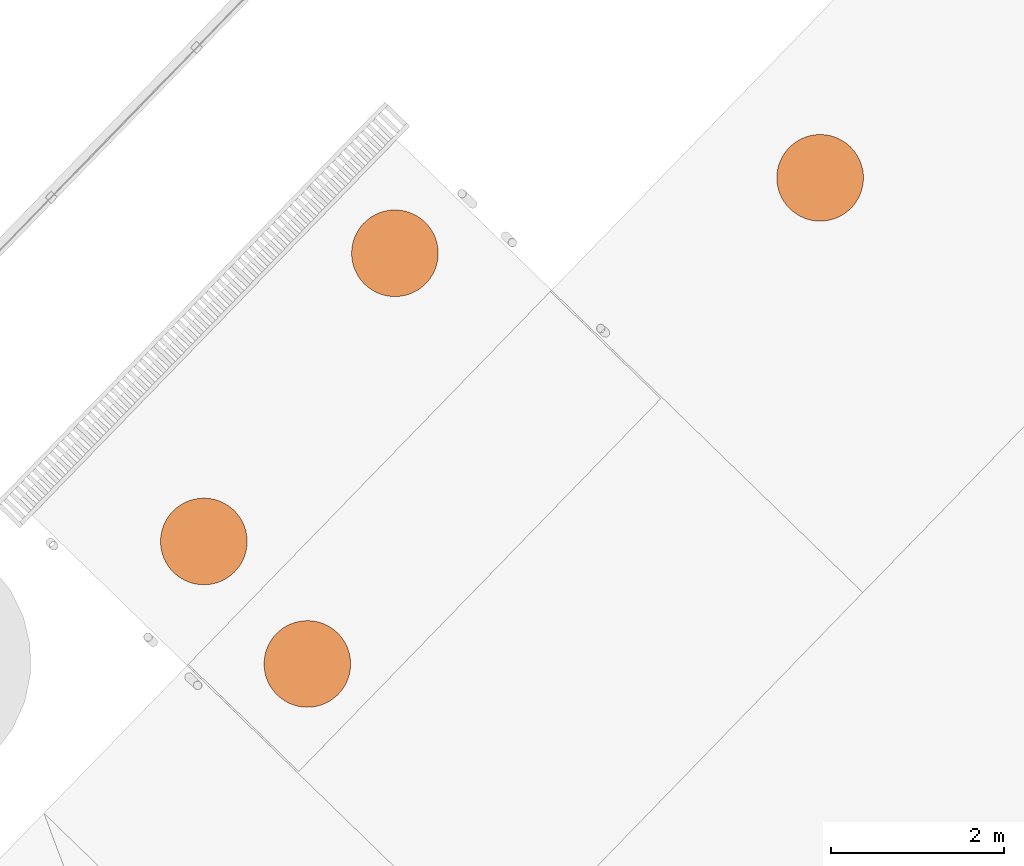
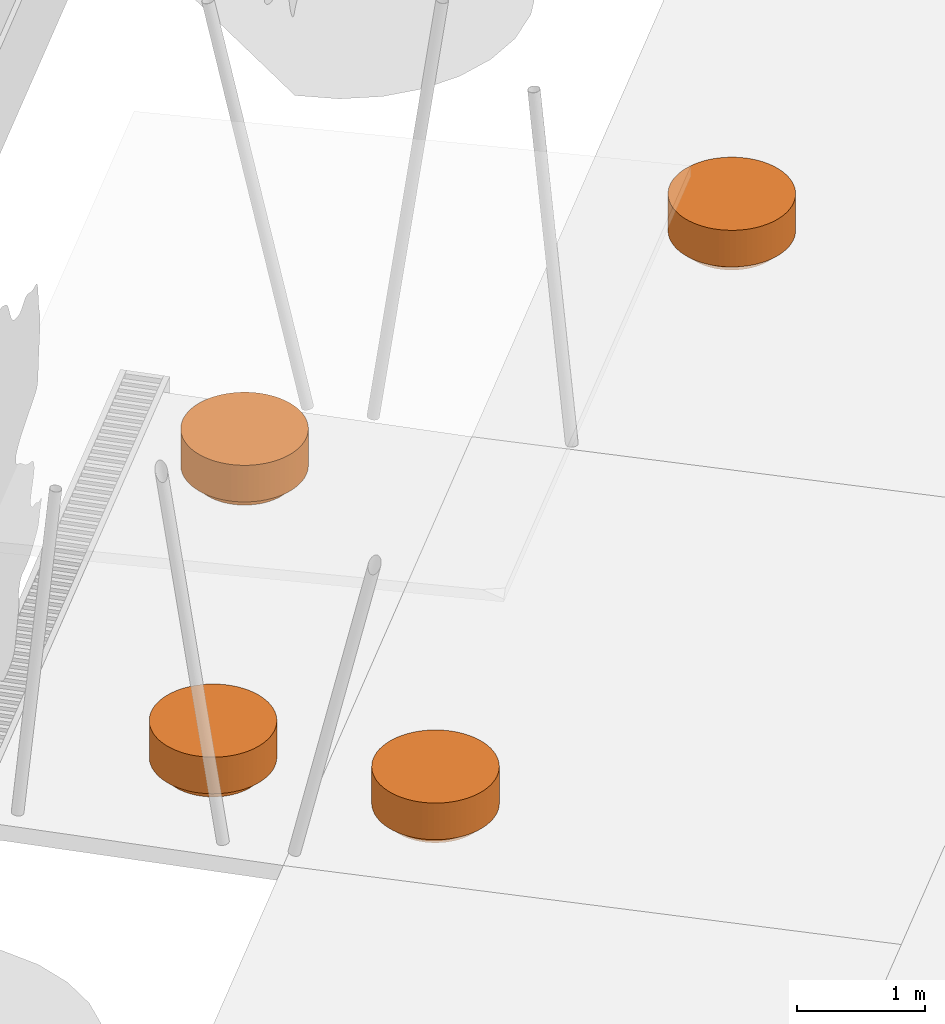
# One storey, part 35 of 37: 4 proxies.
"""IFC2X3 building model written with IfcOpenShell, lengths in centimetres."""

from ifc_helpers import new_model, entity, si_unit, converted_unit, derived_unit, direction, frame, frame_2d, origin, place, context, subcontext, project, spatial, circle, extrude, source, transform, mapped, material, type_object, type_shapes, element, save


model = new_model("IFC2X3")

# Units and contexts
model_context = context("Model", 3, precision=0.001, world=origin(), true_north=direction((0.717475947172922, 0.696583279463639)))
body_context = subcontext(model_context, "Body", "Model", "MODEL_VIEW")
ifc_project = project(units=[si_unit("LENGTHUNIT", "METRE", prefix="CENTI"), si_unit("AREAUNIT", "SQUARE_METRE"), si_unit("VOLUMEUNIT", "CUBIC_METRE"), converted_unit("PLANEANGLEUNIT", "DEGREE", entity("IfcRatioMeasure", 0.0174532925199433), si_unit("PLANEANGLEUNIT", "RADIAN"), dimensions=[0, 0, 0, 0, 0, 0, 0]), si_unit("MASSUNIT", "GRAM", prefix="KILO"), derived_unit("MASSDENSITYUNIT", [(si_unit("MASSUNIT", "GRAM", prefix="KILO"), 1), (si_unit("LENGTHUNIT", "METRE"), -3)]), si_unit("TIMEUNIT", "SECOND"), si_unit("FREQUENCYUNIT", "HERTZ"), si_unit("THERMODYNAMICTEMPERATUREUNIT", "DEGREE_CELSIUS"), derived_unit("THERMALTRANSMITTANCEUNIT", [(si_unit("MASSUNIT", "GRAM", prefix="KILO"), 1), (si_unit("THERMODYNAMICTEMPERATUREUNIT", "KELVIN"), -1), (si_unit("TIMEUNIT", "SECOND"), -3)]), derived_unit("VOLUMETRICFLOWRATEUNIT", [(si_unit("LENGTHUNIT", "METRE"), 3), (si_unit("TIMEUNIT", "SECOND"), -1)]), si_unit("ELECTRICCURRENTUNIT", "AMPERE"), si_unit("ELECTRICVOLTAGEUNIT", "VOLT"), si_unit("POWERUNIT", "WATT"), si_unit("FORCEUNIT", "NEWTON", prefix="KILO"), si_unit("ILLUMINANCEUNIT", "LUX"), si_unit("LUMINOUSFLUXUNIT", "LUMEN"), si_unit("LUMINOUSINTENSITYUNIT", "CANDELA"), derived_unit("USERDEFINED", [(si_unit("MASSUNIT", "GRAM", prefix="KILO"), -1), (si_unit("LENGTHUNIT", "METRE"), -2), (si_unit("TIMEUNIT", "SECOND"), 3), (si_unit("LUMINOUSFLUXUNIT", "LUMEN"), 1)]), derived_unit("LINEARVELOCITYUNIT", [(si_unit("LENGTHUNIT", "METRE"), 1), (si_unit("TIMEUNIT", "SECOND"), -1)]), si_unit("PRESSUREUNIT", "PASCAL"), derived_unit("USERDEFINED", [(si_unit("LENGTHUNIT", "METRE"), -2), (si_unit("MASSUNIT", "GRAM", prefix="KILO"), 1), (si_unit("TIMEUNIT", "SECOND"), -2)])], contexts=[model_context])

# Site, building, storey
site_placement = place(None, frame((0.0, 0.0, 0.0), z_axis=(0.0, 0.0, 1.0), x_axis=(0.696583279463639, 0.717475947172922, 0.0)))
site = spatial("IfcSite", under=ifc_project, at=site_placement, Name="Surface", CompositionType="ELEMENT")
building_placement = place(site_placement, origin())
building = spatial("IfcBuilding", under=site, at=building_placement, CompositionType="ELEMENT")
storey_placement = place(building_placement, origin())
storey = spatial("IfcBuildingStorey", under=building, at=storey_placement, Name="Nivel 0.00", CompositionType="ELEMENT", Elevation=0.0)

# Proxies
ifc_material = material(Name="Concrete, Precast")
building_element_proxy_type = type_object("IfcBuildingElementProxyType", Name="ARQ_BANCA_REDONDA", PredefinedType="NOTDEFINED", material=ifc_material)
shared_shape = source(origin(), body_context, "Body", "SweptSolid", [
    extrude(circle(Radius=50.0, at=frame_2d((9.37526436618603e-16, -8.07772287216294e-14), x_axis=(1.0, 0.0))), frame((0.0, 0.0, 10.0)), (0.0, 0.0, 1.0), 35.0),
    extrude(circle(Radius=40.0, at=frame_2d((-1.61808723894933e-18, -6.46217829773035e-14), x_axis=(1.0, 0.0))), origin(), (0.0, 0.0, 1.0), 10.0),
])
type_shapes(building_element_proxy_type, [shared_shape])
for number, where, name in (
    (1, (-1019.3043630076, 664.667913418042, 140.0), "ARQ_BANCA_REDONDA:ARQ_BANCA_REDONDA"),
    (2, (-626.821513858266, 738.183832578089, 140.0), "ARQ_BANCA_REDONDA:ARQ_BANCA_REDONDA"),
    (3, (-1037.51947610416, 480.353163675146, 140.0), "ARQ_BANCA_REDONDA:ARQ_BANCA_REDONDA"),
    (4, (-222.27276497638, 446.564756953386, 140.0), "ARQ_BANCA_REDONDA:ARQ_BANCA_REDONDA"),
):
    element("IfcBuildingElementProxy", number, at=place(storey_placement, frame(where)), inside=storey, type_object=building_element_proxy_type, material=ifc_material, Name=name, ObjectType="ARQ_BANCA_REDONDA", context=body_context, shape_type="MappedRepresentation", body=[
        mapped(shared_shape, transform((0.0, 0.0, 0.0), scale=1.0)),
    ])

save(model, "model.ifc")
